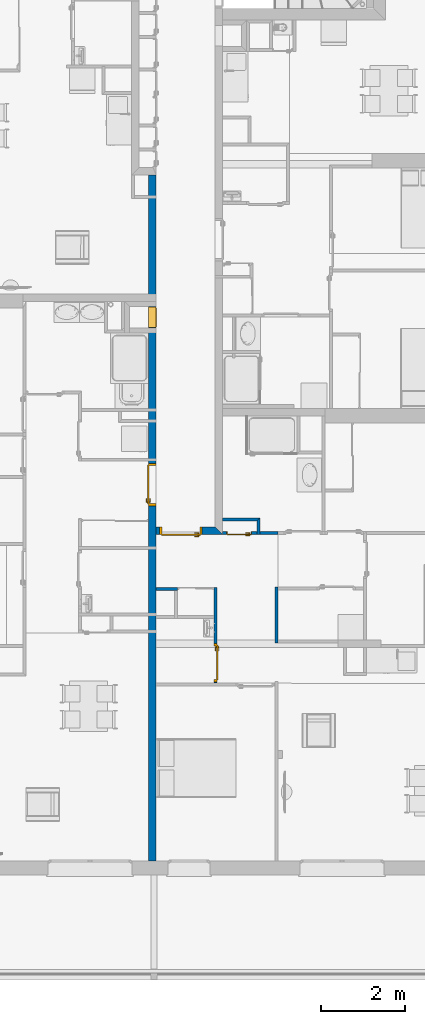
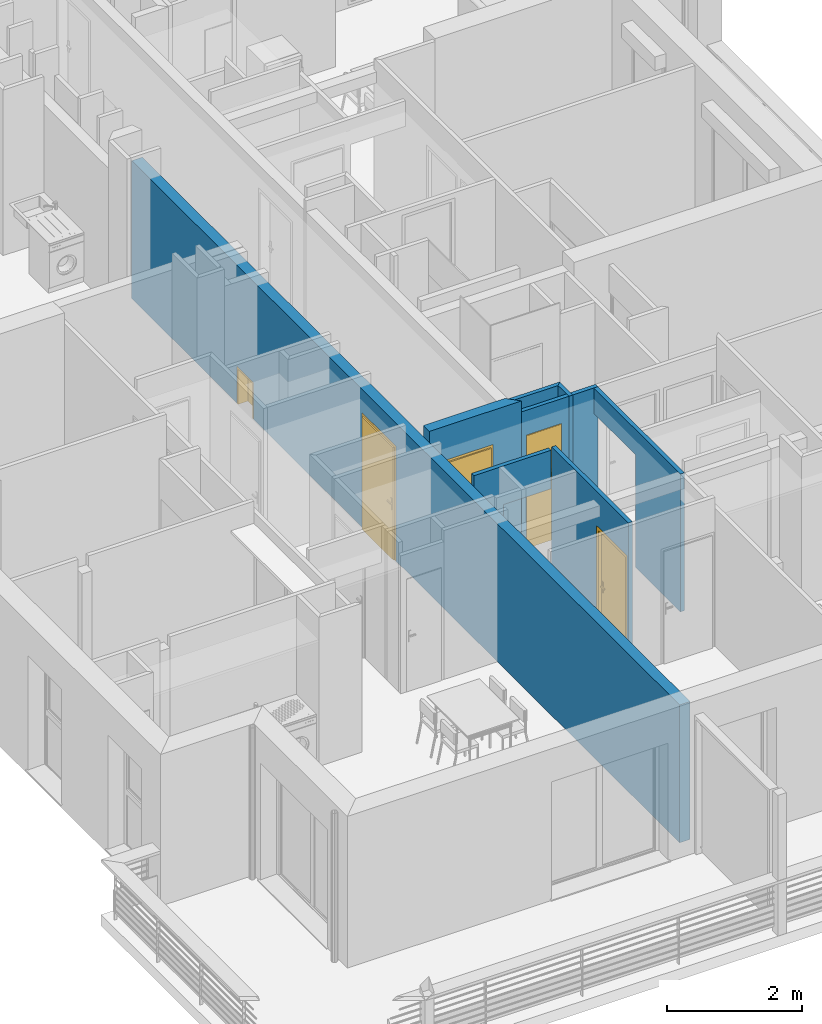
# One storey, part 11 of 164: 8 walls, 5 doors, 7 openings.
"""IFC2X3 building model written with IfcOpenShell, lengths in millimetres."""

from ifc_helpers import new_model, entity, si_unit, converted_unit, derived_unit, money_unit, direction, frame, origin_with_axes, origin_2d_with_axis, place, context, subcontext, project, spatial, polyline, rectangle, outline, extrude, faceted_brep, source, transform, mapped, material, layer, layer_set, layer_usage, type_object, element, fill, save


model = new_model("IFC2X3")

# Units and contexts
model_context = context("Model", 3, precision=0.01, world=origin_with_axes(), true_north=direction((0.0, 1.0)))
body_context = subcontext(model_context, "Body", "Model", "MODEL_VIEW")
ifc_project = project(units=[si_unit("LENGTHUNIT", "METRE", prefix="MILLI"), si_unit("AREAUNIT", "SQUARE_METRE"), si_unit("VOLUMEUNIT", "CUBIC_METRE"), converted_unit("PLANEANGLEUNIT", "DEGREE", entity("IfcPlaneAngleMeasure", 0.0174532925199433), si_unit("PLANEANGLEUNIT", "RADIAN"), dimensions=[0, 0, 0, 0, 0, 0, 0]), money_unit("USD"), converted_unit("TIMEUNIT", "Year", entity("IfcTimeMeasure", 31557600.0), si_unit("TIMEUNIT", "SECOND"), dimensions=[0, 0, 1, 0, 0, 0, 0]), si_unit("MASSUNIT", "GRAM", prefix="KILO"), si_unit("THERMODYNAMICTEMPERATUREUNIT", "DEGREE_CELSIUS"), si_unit("LUMINOUSINTENSITYUNIT", "LUMEN"), si_unit("ENERGYUNIT", "JOULE", prefix="MEGA"), derived_unit("THERMALCONDUCTANCEUNIT", [(si_unit("POWERUNIT", "WATT"), 1), (si_unit("LENGTHUNIT", "METRE"), -1), (si_unit("THERMODYNAMICTEMPERATUREUNIT", "KELVIN"), -1)]), derived_unit("SPECIFICHEATCAPACITYUNIT", [(si_unit("ENERGYUNIT", "JOULE"), 1), (si_unit("MASSUNIT", "GRAM", prefix="KILO"), -1), (si_unit("THERMODYNAMICTEMPERATUREUNIT", "KELVIN"), -1)]), derived_unit("MASSDENSITYUNIT", [(si_unit("MASSUNIT", "GRAM", prefix="KILO"), 1), (si_unit("VOLUMEUNIT", "CUBIC_METRE"), -1)])], contexts=[model_context])

# Site, building, storey
site_placement = place(None, origin_with_axes())
site = spatial("IfcSite", under=ifc_project, at=site_placement, Name="Site", CompositionType="ELEMENT")
building_placement = place(site_placement, origin_with_axes())
building = spatial("IfcBuilding", under=site, at=building_placement, Name="Bâtiment", CompositionType="ELEMENT")
storey_placement = place(building_placement, frame((0.0, 0.0, 5750.0), z_axis=(0.0, 0.0, 1.0), x_axis=(1.0, 0.0, 0.0)))
storey = spatial("IfcBuildingStorey", under=building, at=storey_placement, Name="Etage1", CompositionType="ELEMENT", Elevation=5750.0)

# Wall, openings, doors
ifc_material_1 = material(Name="Parpaing 314940890")
ifc_layer_1 = layer(ifc_material_1, 180.0, ventilated="UNKNOWN")
ifc_layer_set_1 = layer_set([ifc_layer_1], Name="Beton  18 0018356637")
ifc_layer_usage_1 = layer_usage(ifc_layer_set_1, "AXIS2", "NEGATIVE", 0.0)
wall_type_1 = type_object("IfcWallType", Name="Beton  18 0018356637 180", PredefinedType="NOTDEFINED")
wall_1_placement = place(storey_placement, frame((2224312.31835671, -641196.7399759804, 0.0), z_axis=(0.0, 0.0, 1.0), x_axis=(0.0, -1.0, 0.0)))
wall_1 = element("IfcWallStandardCase", 1, at=wall_1_placement, inside=storey, type_object=wall_type_1, material=ifc_layer_usage_1, Name="Mur-143", context=body_context, shape_type="SweptSolid", body=[
    extrude(outline(polyline([(-0.0004503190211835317, -179.99999999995), (16281.58310098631, -179.99999999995), (16281.58310098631, 0.0), (0.0, 0.0), (-0.0004503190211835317, -179.99999999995)])), origin_with_axes(), (0.0, 0.0, 1.0), 2500.000000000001),
])
opening_1_placement = place(wall_1_placement, frame((3375.692321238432, -1.13686837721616e-10, 0.0), z_axis=(0.0, 0.0, 1.0), x_axis=(1.0, 0.0, 0.0)))
opening_1 = element("IfcOpeningElement", 2, at=opening_1_placement, cuts=wall_1, Name="Por-232", context=body_context, shape_type="SweptSolid", body=[
    extrude(rectangle(XDim=489.9999985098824, YDim=669.9999999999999, at=origin_2d_with_axis()), frame((-7.450609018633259e-07, -179.99999999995, 334.9999999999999), z_axis=(0.0, 1.0, 0.0), x_axis=(1.0, 0.0, 0.0)), (0.0, 0.0, 1.0), 360.0),
])
opening_2_placement = place(wall_1_placement, frame((7346.78972959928, -1.13686837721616e-10, 0.0), z_axis=(0.0, 0.0, 1.0), x_axis=(1.0, 0.0, 0.0)))
opening_2 = element("IfcOpeningElement", 3, at=opening_2_placement, cuts=wall_1, Name="Por-299", context=body_context, shape_type="SweptSolid", body=[
    extrude(rectangle(XDim=1010.00001192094, YDim=2080.0, at=origin_2d_with_axis()), frame((-5.960473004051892e-06, 179.99999999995, 1040.0), z_axis=(0.0, -1.0, 0.0), x_axis=(-1.0, 0.0, 0.0)), (0.0, 0.0, 1.0), 360.0),
])
door_style = type_object("IfcDoorStyle", Name="Porte_1v", ConstructionType="NOTDEFINED", OperationType="NOTDEFINED", ParameterTakesPrecedence=False, Sizeable=False)
shared_shape_1 = source(origin_with_axes(), body_context, "Body", "Brep", [
    faceted_brep([(504.9999999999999, 0.0, 0.0), (464.9999999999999, 0.0, 0.0), (464.9999999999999, 0.0, 2040.0), (-464.9999999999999, 0.0, 2040.0), (-464.9999999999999, 0.0, 0.0), (-504.9999999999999, 0.0, 0.0), (-504.9999999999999, 0.0, 2080.0), (504.9999999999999, 0.0, 2080.0), (504.9999999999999, -180.0, 0.0), (449.9999999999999, -180.0, 0.0), (449.9999999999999, -15.0, 0.0), (464.9999999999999, -15.0, 0.0), (464.9999999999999, -15.0, 2040.0), (-464.9999999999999, -15.0, 2040.0), (-464.9999999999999, -15.0, 0.0), (-449.9999999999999, -15.0, 0.0), (-449.9999999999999, -180.0, 0.0), (-504.9999999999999, -180.0, 0.0), (-504.9999999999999, -180.0, 2080.0), (504.9999999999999, -180.0, 2080.0), (-449.9999999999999, -180.0, 2025.0), (449.9999999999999, -180.0, 2025.0), (449.9999999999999, -15.0, 2025.0), (-449.9999999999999, -15.0, 2025.0)], [[[0, 1, 2, 3, 4, 5, 6, 7]], [[0, 8, 9, 10, 11, 1]], [[1, 11, 12, 2]], [[2, 12, 13, 3]], [[3, 13, 14, 4]], [[5, 4, 14, 15, 16, 17]], [[18, 6, 5, 17]], [[19, 7, 6, 18]], [[8, 0, 7, 19]], [[9, 8, 19, 18, 17, 16, 20, 21]], [[10, 9, 21, 22]], [[11, 10, 22, 23, 15, 14, 13, 12]], [[23, 20, 16, 15]], [[22, 21, 20, 23]]]),
    faceted_brep([(-399.9999999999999, -15.0, 900.0), (-439.9999999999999, -15.0, 900.0), (-439.9999999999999, -15.0, 1100.0), (-399.9999999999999, -15.0, 1100.0), (-399.9999999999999, -25.0, 900.0), (-439.9999999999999, -25.0, 900.0), (-439.9999999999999, -25.0, 1100.0), (-399.9999999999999, -25.0, 1100.0)], [[[0, 1, 2, 3]], [[1, 0, 4, 5]], [[2, 1, 5, 6]], [[3, 2, 6, 7]], [[0, 3, 7, 4]], [[5, 4, 7, 6]]]),
    faceted_brep([(-329.9999999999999, -25.0, 1000.0), (-429.9999999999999, -25.0, 1000.0), (-429.9999999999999, -25.0, 1020.0), (-329.9999999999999, -25.0, 1020.0), (-329.9999999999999, -44.99999999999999, 1000.0), (-429.9999999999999, -44.99999999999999, 1000.0), (-429.9999999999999, -44.99999999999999, 1020.0), (-329.9999999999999, -44.99999999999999, 1020.0)], [[[0, 1, 2, 3]], [[1, 0, 4, 5]], [[2, 1, 5, 6]], [[3, 2, 6, 7]], [[0, 3, 7, 4]], [[5, 4, 7, 6]]]),
    faceted_brep([(-399.9999999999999, 34.99999999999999, 900.0), (-439.9999999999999, 34.99999999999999, 900.0), (-439.9999999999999, 34.99999999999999, 1100.0), (-399.9999999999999, 34.99999999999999, 1100.0), (-399.9999999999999, 25.0, 900.0), (-439.9999999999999, 25.0, 900.0), (-439.9999999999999, 25.0, 1100.0), (-399.9999999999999, 25.0, 1100.0)], [[[0, 1, 2, 3]], [[1, 0, 4, 5]], [[2, 1, 5, 6]], [[3, 2, 6, 7]], [[0, 3, 7, 4]], [[5, 4, 7, 6]]]),
    faceted_brep([(-329.9999999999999, 55.0, 1000.0), (-429.9999999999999, 55.0, 1000.0), (-429.9999999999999, 55.0, 1020.0), (-329.9999999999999, 55.0, 1020.0), (-329.9999999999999, 34.99999999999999, 1000.0), (-429.9999999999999, 34.99999999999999, 1000.0), (-429.9999999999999, 34.99999999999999, 1020.0), (-329.9999999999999, 34.99999999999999, 1020.0)], [[[0, 1, 2, 3]], [[1, 0, 4, 5]], [[2, 1, 5, 6]], [[3, 2, 6, 7]], [[0, 3, 7, 4]], [[5, 4, 7, 6]]]),
    faceted_brep([(-464.9999999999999, 25.0, 0.0), (464.9999999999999, 25.0, 0.0), (464.9999999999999, -15.0, 0.0), (-464.9999999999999, -15.0, 0.0), (-464.9999999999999, 25.0, 2040.0), (464.9999999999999, 25.0, 2040.0), (464.9999999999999, -15.0, 2040.0), (-464.9999999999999, -15.0, 2040.0)], [[[0, 1, 2, 3]], [[0, 4, 5, 1]], [[1, 5, 6, 2]], [[3, 2, 6, 7]], [[4, 0, 3, 7]], [[5, 4, 7, 6]]]),
])
door_1_placement = place(opening_2_placement, frame((464.9999999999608, -1.13686837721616e-10, 0.0), z_axis=(0.0, 0.0, 1.0), x_axis=(-1.0, 0.0, 0.0)))
door_1 = element("IfcDoor", 4, at=door_1_placement, inside=storey, type_object=door_style, Name="Por-299", OverallHeight=2040.0, OverallWidth=930.0, context=body_context, shape_type="MappedRepresentation", body=[
    mapped(shared_shape_1, transform((465.0000000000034, 179.99999999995, 0.0))),
])
fill(opening_2, door_1)
shared_shape_2 = source(origin_with_axes(), body_context, "Body", "Brep", [
    faceted_brep([(245.0, 0.0, 0.0), (225.0, 0.0, 0.0), (225.0, 0.0, 650.0), (-225.0, 0.0, 650.0), (-225.0, 0.0, 0.0), (-245.0, 0.0, 0.0), (-245.0, 0.0, 670.0), (245.0, 0.0, 670.0), (245.0, -180.0, 0.0), (210.0, -180.0, 0.0), (210.0, -15.0, 0.0), (225.0, -15.0, 0.0), (225.0, -15.0, 650.0), (-225.0, -15.0, 650.0), (-225.0, -15.0, 0.0), (-210.0, -15.0, 0.0), (-210.0, -180.0, 0.0), (-245.0, -180.0, 0.0), (-245.0, -180.0, 670.0), (245.0, -180.0, 670.0), (-210.0, -180.0, 635.0), (210.0, -180.0, 635.0), (210.0, -15.0, 635.0), (-210.0, -15.0, 635.0)], [[[0, 1, 2, 3, 4, 5, 6, 7]], [[0, 8, 9, 10, 11, 1]], [[1, 11, 12, 2]], [[2, 12, 13, 3]], [[3, 13, 14, 4]], [[5, 4, 14, 15, 16, 17]], [[18, 6, 5, 17]], [[19, 7, 6, 18]], [[8, 0, 7, 19]], [[9, 8, 19, 18, 17, 16, 20, 21]], [[10, 9, 21, 22]], [[11, 10, 22, 23, 15, 14, 13, 12]], [[23, 20, 16, 15]], [[22, 21, 20, 23]]]),
    faceted_brep([(-225.0, 5.000000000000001, 0.0), (225.0, 5.000000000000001, 0.0), (225.0, -15.0, 0.0), (-225.0, -15.0, 0.0), (-225.0, 5.000000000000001, 650.0), (225.0, 5.000000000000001, 650.0), (225.0, -15.0, 650.0), (-225.0, -15.0, 650.0)], [[[0, 1, 2, 3]], [[0, 4, 5, 1]], [[1, 5, 6, 2]], [[3, 2, 6, 7]], [[4, 0, 3, 7]], [[5, 4, 7, 6]]]),
])
door_2_placement = place(opening_1_placement, frame((-224.9999999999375, -1.13686837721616e-10, 0.0), z_axis=(0.0, 0.0, 1.0), x_axis=(1.0, 0.0, 0.0)))
door_2 = element("IfcDoor", 5, at=door_2_placement, inside=storey, type_object=door_style, Name="Por-232", OverallHeight=650.0, OverallWidth=450.0, context=body_context, shape_type="MappedRepresentation", body=[
    mapped(shared_shape_2, transform((224.9999999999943, 0.0, 0.0))),
])
fill(opening_1, door_2)

# Wall, opening, door
ifc_layer_usage_2 = layer_usage(ifc_layer_set_1, "AXIS2", "NEGATIVE", 0.0)
wall_2_placement = place(storey_placement, frame((2224312.318363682, -649549.5926358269, 0.0), z_axis=(0.0, 0.0, 1.0), x_axis=(1.0, 0.0, 0.0)))
wall_2 = element("IfcWallStandardCase", 6, at=wall_2_placement, inside=storey, type_object=wall_type_1, material=ifc_layer_usage_2, Name="Mur-142", context=body_context, shape_type="SweptSolid", body=[
    extrude(outline(polyline([(-6.972868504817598e-06, -180.0000000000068), (1579.999993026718, -180.0000000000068), (1399.999993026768, 0.0), (-6.972868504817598e-06, 0.0), (-6.972868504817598e-06, -180.0000000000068)])), origin_with_axes(), (0.0, 0.0, 1.0), 2700.0),
])
opening_3_placement = place(wall_2_placement, frame((587.6093095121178, 0.0, 0.0), z_axis=(0.0, 0.0, 1.0), x_axis=(1.0, 0.0, 0.0)))
opening_3 = element("IfcOpeningElement", 7, at=opening_3_placement, cuts=wall_2, Name="Por-299", context=body_context, shape_type="SweptSolid", body=[
    extrude(rectangle(XDim=1010.00001192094, YDim=2080.0, at=origin_2d_with_axis()), frame((-5.960487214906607e-06, 180.0000000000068, 1040.0), z_axis=(0.0, -1.0, 0.0), x_axis=(-1.0, 0.0, 0.0)), (0.0, 0.0, 1.0), 360.0),
])
door_3_placement = place(opening_3_placement, frame((465.0000000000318, 0.0, 0.0), z_axis=(0.0, 0.0, 1.0), x_axis=(-1.0, 0.0, 0.0)))
door_3 = element("IfcDoor", 8, at=door_3_placement, inside=storey, type_object=door_style, Name="Por-299", OverallHeight=2040.0, OverallWidth=930.0, context=body_context, shape_type="MappedRepresentation", body=[
    mapped(shared_shape_1, transform((465.0000000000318, 180.0000000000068, 0.0))),
])
fill(opening_3, door_3)

# Walls
ifc_material_2 = material(Name="Hachure solide 268963992")
ifc_layer_2 = layer(ifc_material_2, 70.0, ventilated="UNKNOWN")
ifc_layer_set_2 = layer_set([ifc_layer_2], Name="Cloison 70 0826278243")
ifc_layer_usage_3 = layer_usage(ifc_layer_set_2, "AXIS2", "POSITIVE", -70.0)
wall_type_2 = type_object("IfcWallType", Name="Cloison 70 0826278243 70", PredefinedType="NOTDEFINED")
wall_3_placement = place(storey_placement, frame((2225892.31835671, -649338.3100869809, 0.0), z_axis=(0.0, 0.0, 1.0), x_axis=(0.999999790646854, -0.0006470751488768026, 0.0)))
element("IfcWallStandardCase", 9, at=wall_3_placement, inside=storey, type_object=wall_type_2, material=ifc_layer_usage_3, Name="Mur-149", context=body_context, shape_type="SweptSolid", body=[
    extrude(outline(polyline([(1.13686837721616e-10, -69.99999999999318), (812.3850241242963, -69.99999999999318), (882.3850284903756, 0.0), (0.0, 0.0), (1.13686837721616e-10, -69.99999999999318)])), origin_with_axes(), (0.0, 0.0, 1.0), 2500.0),
])
ifc_layer_usage_4 = layer_usage(ifc_layer_set_2, "AXIS2", "POSITIVE", -70.0)
wall_4_placement = place(storey_placement, frame((2226774.70320047, -649338.8810564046, 0.0), z_axis=(0.0, 0.0, 1.0), x_axis=(-0.0006471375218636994, -0.999999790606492, 0.0)))
element("IfcWallStandardCase", 10, at=wall_4_placement, inside=storey, type_object=wall_type_2, material=ifc_layer_usage_4, Name="Mur-149", context=body_context, shape_type="SweptSolid", body=[
    extrude(outline(polyline([(70.00000436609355, -70.00000000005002), (391.2824669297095, -69.99999999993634), (391.2824669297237, 0.0), (0.0, 0.0), (70.00000436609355, -70.00000000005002)])), origin_with_axes(), (0.0, 0.0, 1.0), 2500.0),
])

# Wall, opening, door
ifc_layer_usage_5 = layer_usage(ifc_layer_set_2, "AXIS2", "NEGATIVE", 70.0)
wall_5_placement = place(storey_placement, frame((2225892.318356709, -649729.592635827, 0.0), z_axis=(0.0, 0.0, 1.0), x_axis=(1.0, 0.0, 0.0)))
wall_5 = element("IfcWallStandardCase", 11, at=wall_5_placement, inside=storey, type_object=wall_type_2, material=ifc_layer_usage_5, Name="Mur-149", context=body_context, shape_type="SweptSolid", body=[
    extrude(outline(polyline([(0.0, 0.0), (1310.012145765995, 0.0), (1310.012145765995, 69.99999999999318), (0.0, 69.99999999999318), (0.0, 0.0)])), origin_with_axes(), (0.0, 0.0, 1.0), 2500.0),
])
opening_4_placement = place(wall_5_placement, frame((389.9479966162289, 0.0, 0.0), z_axis=(0.0, 0.0, 1.0), x_axis=(1.0, 0.0, 0.0)))
opening_4 = element("IfcOpeningElement", 12, at=opening_4_placement, cuts=wall_5, Name="Por-274", context=body_context, shape_type="SweptSolid", body=[
    extrude(rectangle(XDim=599.9999999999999, YDim=2050.0, at=origin_2d_with_axis()), frame((0.0, 69.99999999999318, 1025.0), z_axis=(0.0, -1.0, 0.0), x_axis=(-1.0, 0.0, 0.0)), (0.0, 0.0, 1.0), 140.0),
])
shared_shape_3 = source(origin_with_axes(), body_context, "Body", "Brep", [
    faceted_brep([(300.0, 0.0, 0.0), (290.0, 0.0, 0.0), (290.0, 0.0, 2040.0), (-290.0, 0.0, 2040.0), (-290.0, 0.0, 0.0), (-300.0, 0.0, 0.0), (-300.0, 0.0, 2050.0), (300.0, 0.0, 2050.0), (300.0, -70.0, 0.0), (279.9999999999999, -70.0, 0.0), (279.9999999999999, -15.0, 0.0), (290.0, -15.0, 0.0), (290.0, -15.0, 2040.0), (-290.0, -15.0, 2040.0), (-290.0, -15.0, 0.0), (-279.9999999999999, -15.0, 0.0), (-279.9999999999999, -70.0, 0.0), (-300.0, -70.0, 0.0), (-300.0, -70.0, 2050.0), (300.0, -70.0, 2050.0), (-279.9999999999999, -70.0, 2030.0), (279.9999999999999, -70.0, 2030.0), (279.9999999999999, -15.0, 2030.0), (-279.9999999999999, -15.0, 2030.0)], [[[0, 1, 2, 3, 4, 5, 6, 7]], [[0, 8, 9, 10, 11, 1]], [[1, 11, 12, 2]], [[2, 12, 13, 3]], [[3, 13, 14, 4]], [[5, 4, 14, 15, 16, 17]], [[18, 6, 5, 17]], [[19, 7, 6, 18]], [[8, 0, 7, 19]], [[9, 8, 19, 18, 17, 16, 20, 21]], [[10, 9, 21, 22]], [[11, 10, 22, 23, 15, 14, 13, 12]], [[23, 20, 16, 15]], [[22, 21, 20, 23]]]),
    faceted_brep([(-224.9999999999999, -15.0, 900.0), (-264.9999999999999, -15.0, 900.0), (-264.9999999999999, -15.0, 1100.0), (-224.9999999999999, -15.0, 1100.0), (-224.9999999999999, -25.0, 900.0), (-264.9999999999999, -25.0, 900.0), (-264.9999999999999, -25.0, 1100.0), (-224.9999999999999, -25.0, 1100.0)], [[[0, 1, 2, 3]], [[1, 0, 4, 5]], [[2, 1, 5, 6]], [[3, 2, 6, 7]], [[0, 3, 7, 4]], [[5, 4, 7, 6]]]),
    faceted_brep([(-154.9999999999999, -25.0, 1000.0), (-254.9999999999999, -25.0, 1000.0), (-254.9999999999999, -25.0, 1020.0), (-154.9999999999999, -25.0, 1020.0), (-154.9999999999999, -45.0, 1000.0), (-254.9999999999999, -45.0, 1000.0), (-254.9999999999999, -45.0, 1020.0), (-154.9999999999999, -45.0, 1020.0)], [[[0, 1, 2, 3]], [[1, 0, 4, 5]], [[2, 1, 5, 6]], [[3, 2, 6, 7]], [[0, 3, 7, 4]], [[5, 4, 7, 6]]]),
    faceted_brep([(-224.9999999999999, 15.0, 900.0), (-264.9999999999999, 15.0, 900.0), (-264.9999999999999, 15.0, 1100.0), (-224.9999999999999, 15.0, 1100.0), (-224.9999999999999, 5.000000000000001, 900.0), (-264.9999999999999, 5.000000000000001, 900.0), (-264.9999999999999, 5.000000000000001, 1100.0), (-224.9999999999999, 5.000000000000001, 1100.0)], [[[0, 1, 2, 3]], [[1, 0, 4, 5]], [[2, 1, 5, 6]], [[3, 2, 6, 7]], [[0, 3, 7, 4]], [[5, 4, 7, 6]]]),
    faceted_brep([(-154.9999999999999, 35.0, 1000.0), (-254.9999999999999, 35.0, 1000.0), (-254.9999999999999, 35.0, 1020.0), (-154.9999999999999, 35.0, 1020.0), (-154.9999999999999, 15.0, 1000.0), (-254.9999999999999, 15.0, 1000.0), (-254.9999999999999, 15.0, 1020.0), (-154.9999999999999, 15.0, 1020.0)], [[[0, 1, 2, 3]], [[1, 0, 4, 5]], [[2, 1, 5, 6]], [[3, 2, 6, 7]], [[0, 3, 7, 4]], [[5, 4, 7, 6]]]),
    faceted_brep([(-290.0, 5.000000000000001, 0.0), (290.0, 5.000000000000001, 0.0), (290.0, -15.0, 0.0), (-290.0, -15.0, 0.0), (-290.0, 5.000000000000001, 2040.0), (290.0, 5.000000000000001, 2040.0), (290.0, -15.0, 2040.0), (-290.0, -15.0, 2040.0)], [[[0, 1, 2, 3]], [[0, 4, 5, 1]], [[1, 5, 6, 2]], [[3, 2, 6, 7]], [[4, 0, 3, 7]], [[5, 4, 7, 6]]]),
])
door_4_placement = place(opening_4_placement, frame((289.9999999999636, 0.0, 0.0), z_axis=(0.0, 0.0, 1.0), x_axis=(-1.0, 0.0, 0.0)))
door_4 = element("IfcDoor", 13, at=door_4_placement, inside=storey, type_object=door_style, Name="Por-274", OverallHeight=2040.0, OverallWidth=580.0, context=body_context, shape_type="MappedRepresentation", body=[
    mapped(shared_shape_3, transform((289.9999999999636, 0.0, 0.0))),
])
fill(opening_4, door_4)

# Wall, opening
ifc_layer_usage_6 = layer_usage(ifc_layer_set_2, "AXIS2", "NEGATIVE", 70.0)
wall_6_placement = place(storey_placement, frame((2224312.032083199, -651054.3517134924, 0.0), z_axis=(0.0, 0.0, 1.0), x_axis=(1.0, 0.0, 0.0)))
wall_6 = element("IfcWallStandardCase", 14, at=wall_6_placement, inside=storey, type_object=wall_type_2, material=ifc_layer_usage_6, Name="Mur-149", context=body_context, shape_type="SweptSolid", body=[
    extrude(outline(polyline([(0.0, 0.0), (1321.010257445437, 0.0), (1321.010257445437, 69.99999999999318), (0.0, 69.99999999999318), (0.0, 0.0)])), origin_with_axes(), (0.0, 0.0, 1.0), 2700.0),
])
opening_5_placement = place(wall_6_placement, frame((938.825091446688, 0.0, 0.0), z_axis=(0.0, 0.0, 1.0), x_axis=(1.0, 0.0, 0.0)))
element("IfcOpeningElement", 15, at=opening_5_placement, cuts=wall_6, Name="Por-321", context=body_context, shape_type="SweptSolid", body=[
    extrude(rectangle(XDim=871.9315934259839, YDim=2000.0, at=origin_2d_with_axis()), frame((0.0, 69.99999999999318, 1000.0), z_axis=(0.0, -1.0, 0.0), x_axis=(1.0, 0.0, 0.0)), (0.0, 0.0, -1.0), 70.0),
    extrude(rectangle(XDim=871.9315934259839, YDim=2000.0, at=origin_2d_with_axis()), frame((0.0, 69.99999999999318, 1000.0), z_axis=(0.0, 1.0, 0.0), x_axis=(1.0, 0.0, 0.0)), (0.0, 0.0, -1.0), 70.0),
])

# Wall, opening, door
ifc_layer_usage_7 = layer_usage(ifc_layer_set_2, "AXIS2", "POSITIVE", -70.0)
wall_7_placement = place(storey_placement, frame((2225686.822971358, -653330.4707198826, 0.0), z_axis=(0.0, 0.0, 1.0), x_axis=(0.0, 1.0, 0.0)))
wall_7 = element("IfcWallStandardCase", 16, at=wall_7_placement, inside=storey, type_object=wall_type_2, material=ifc_layer_usage_7, Name="Mur-149", context=body_context, shape_type="SweptSolid", body=[
    extrude(outline(polyline([(69.99999999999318, -70.00000000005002), (2346.119006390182, -70.00000000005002), (2346.119006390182, 0.0), (69.99999999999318, 0.0), (69.99999999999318, -70.00000000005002)])), origin_with_axes(), (0.0, 0.0, 1.0), 2700.0),
])
opening_6_placement = place(wall_7_placement, frame((559.5764867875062, -1.13686837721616e-10, 0.0), z_axis=(0.0, 0.0, 1.0), x_axis=(1.0, 0.0, 0.0)))
opening_6 = element("IfcOpeningElement", 17, at=opening_6_placement, cuts=wall_7, Name="Por-280", context=body_context, shape_type="SweptSolid", body=[
    extrude(rectangle(XDim=910.0, YDim=2080.0, at=origin_2d_with_axis()), frame((0.0, 70.00000000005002, 1040.0), z_axis=(0.0, -1.0, 0.0), x_axis=(-1.0, 0.0, 0.0)), (0.0, 0.0, 1.0), 140.0),
])
shared_shape_4 = source(origin_with_axes(), body_context, "Body", "Brep", [
    faceted_brep([(455.0, 0.0, 0.0), (415.0000000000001, 0.0, 0.0), (415.0000000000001, 0.0, 2040.0), (-415.0000000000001, 0.0, 2040.0), (-415.0000000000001, 0.0, 0.0), (-455.0, 0.0, 0.0), (-455.0, 0.0, 2080.0), (455.0, 0.0, 2080.0), (455.0, -70.0, 0.0), (400.0, -70.0, 0.0), (400.0, -15.0, 0.0), (415.0000000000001, -15.0, 0.0), (415.0000000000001, -15.0, 2040.0), (-415.0000000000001, -15.0, 2040.0), (-415.0000000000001, -15.0, 0.0), (-400.0, -15.0, 0.0), (-400.0, -70.0, 0.0), (-455.0, -70.0, 0.0), (-455.0, -70.0, 2080.0), (455.0, -70.0, 2080.0), (-400.0, -70.0, 2025.0), (400.0, -70.0, 2025.0), (400.0, -15.0, 2025.0), (-400.0, -15.0, 2025.0)], [[[0, 1, 2, 3, 4, 5, 6, 7]], [[0, 8, 9, 10, 11, 1]], [[1, 11, 12, 2]], [[2, 12, 13, 3]], [[3, 13, 14, 4]], [[5, 4, 14, 15, 16, 17]], [[18, 6, 5, 17]], [[19, 7, 6, 18]], [[8, 0, 7, 19]], [[9, 8, 19, 18, 17, 16, 20, 21]], [[10, 9, 21, 22]], [[11, 10, 22, 23, 15, 14, 13, 12]], [[23, 20, 16, 15]], [[22, 21, 20, 23]]]),
    faceted_brep([(-350.0000000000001, -15.0, 900.0), (-390.0, -15.0, 900.0), (-390.0, -15.0, 1100.0), (-350.0000000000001, -15.0, 1100.0), (-350.0000000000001, -25.0, 900.0), (-390.0, -25.0, 900.0), (-390.0, -25.0, 1100.0), (-350.0000000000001, -25.0, 1100.0)], [[[0, 1, 2, 3]], [[1, 0, 4, 5]], [[2, 1, 5, 6]], [[3, 2, 6, 7]], [[0, 3, 7, 4]], [[5, 4, 7, 6]]]),
    faceted_brep([(-280.0, -25.0, 1000.0), (-380.0, -25.0, 1000.0), (-380.0, -25.0, 1020.0), (-280.0, -25.0, 1020.0), (-280.0, -45.0, 1000.0), (-380.0, -45.0, 1000.0), (-380.0, -45.0, 1020.0), (-280.0, -45.0, 1020.0)], [[[0, 1, 2, 3]], [[1, 0, 4, 5]], [[2, 1, 5, 6]], [[3, 2, 6, 7]], [[0, 3, 7, 4]], [[5, 4, 7, 6]]]),
    faceted_brep([(-350.0000000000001, 35.0, 900.0), (-390.0, 35.0, 900.0), (-390.0, 35.0, 1100.0), (-350.0000000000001, 35.0, 1100.0), (-350.0000000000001, 25.0, 900.0), (-390.0, 25.0, 900.0), (-390.0, 25.0, 1100.0), (-350.0000000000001, 25.0, 1100.0)], [[[0, 1, 2, 3]], [[1, 0, 4, 5]], [[2, 1, 5, 6]], [[3, 2, 6, 7]], [[0, 3, 7, 4]], [[5, 4, 7, 6]]]),
    faceted_brep([(-280.0, 55.00000000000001, 1000.0), (-380.0, 55.00000000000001, 1000.0), (-380.0, 55.00000000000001, 1020.0), (-280.0, 55.00000000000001, 1020.0), (-280.0, 35.0, 1000.0), (-380.0, 35.0, 1000.0), (-380.0, 35.0, 1020.0), (-280.0, 35.0, 1020.0)], [[[0, 1, 2, 3]], [[1, 0, 4, 5]], [[2, 1, 5, 6]], [[3, 2, 6, 7]], [[0, 3, 7, 4]], [[5, 4, 7, 6]]]),
    faceted_brep([(-415.0000000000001, 25.0, 0.0), (415.0000000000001, 25.0, 0.0), (415.0000000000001, -15.0, 0.0), (-415.0000000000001, -15.0, 0.0), (-415.0000000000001, 25.0, 2040.0), (415.0000000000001, 25.0, 2040.0), (415.0000000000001, -15.0, 2040.0), (-415.0000000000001, -15.0, 2040.0)], [[[0, 1, 2, 3]], [[0, 4, 5, 1]], [[1, 5, 6, 2]], [[3, 2, 6, 7]], [[4, 0, 3, 7]], [[5, 4, 7, 6]]]),
])
door_5_placement = place(opening_6_placement, frame((415.0000000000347, -1.13686837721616e-10, 0.0), z_axis=(0.0, 0.0, 1.0), x_axis=(-1.0, 0.0, 0.0)))
door_5 = element("IfcDoor", 18, at=door_5_placement, inside=storey, type_object=door_style, Name="Por-280", OverallHeight=2040.0, OverallWidth=830.0, context=body_context, shape_type="MappedRepresentation", body=[
    mapped(shared_shape_4, transform((415.0000000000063, 70.00000000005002, 0.0))),
])
fill(opening_6, door_5)

# Wall, opening
ifc_layer_usage_8 = layer_usage(ifc_layer_set_2, "AXIS2", "NEGATIVE", 70.0)
wall_8_placement = place(storey_placement, frame((2227132.330502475, -649729.592635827, 0.0), z_axis=(0.0, 0.0, 1.0), x_axis=(0.0, -1.0, 0.0)))
wall_8 = element("IfcWallStandardCase", 19, at=wall_8_placement, inside=storey, type_object=wall_type_2, material=ifc_layer_usage_8, Name="Mur-149", context=body_context, shape_type="SweptSolid", body=[
    extrude(outline(polyline([(0.0, 0.0), (2573.712412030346, 0.0), (2573.712412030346, 70.00000000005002), (0.0, 70.00000000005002), (0.0, 0.0)])), origin_with_axes(), (0.0, 0.0, 1.0), 2500.0),
])
opening_7_placement = place(wall_8_placement, frame((622.6767433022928, 1.13686837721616e-10, 0.0), z_axis=(0.0, 0.0, 1.0), x_axis=(1.0, 0.0, 0.0)))
element("IfcOpeningElement", 20, at=opening_7_placement, cuts=wall_8, Name="Por-283", context=body_context, shape_type="SweptSolid", body=[
    extrude(rectangle(XDim=1245.353486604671, YDim=2040.0, at=origin_2d_with_axis()), frame((0.0, 70.00000000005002, 1020.0), z_axis=(0.0, -1.0, 0.0), x_axis=(1.0, 0.0, 0.0)), (0.0, 0.0, -1.0), 70.0),
    extrude(rectangle(XDim=1245.353486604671, YDim=2040.0, at=origin_2d_with_axis()), frame((0.0, 70.00000000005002, 1020.0), z_axis=(0.0, 1.0, 0.0), x_axis=(1.0, 0.0, 0.0)), (0.0, 0.0, -1.0), 70.0),
])

save(model, "model.ifc")
